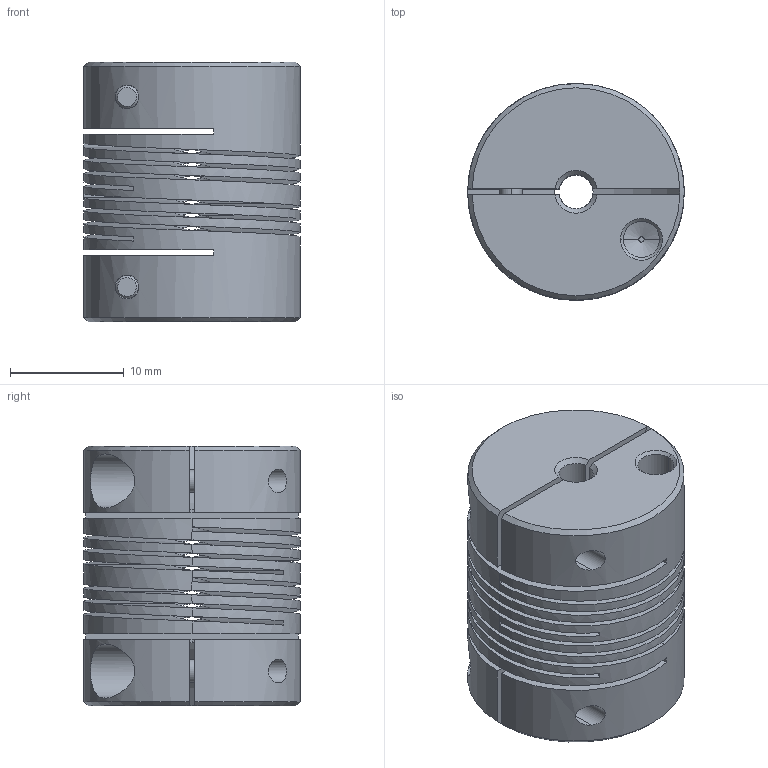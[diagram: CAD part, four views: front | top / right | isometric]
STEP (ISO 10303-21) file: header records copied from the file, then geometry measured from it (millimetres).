
FILE_DESCRIPTION((''),'2;1');
FILE_NAME('PCMR19-3-3-A','2016-09-08T',('SYSTEM'),(''),'PRO/ENGINEER BY PARAMETRIC TECHNOLOGY CORPORATION, 2015110','PRO/ENGINEER BY PARAMETRIC TECHNOLOGY CORPORATION, 2015110','');
FILE_SCHEMA(('AUTOMOTIVE_DESIGN { 1 0 10303 214 1 1 1 1 }'));
Length unit declared in the file: inch
Products named in the file (1): PCMR19-3-3-A
Bounding box: 19.05 x 19.05 x 22.86 mm (x, y, z)
Volume: 5159.6 mm3; surface area: 7050 mm2
Topology: 1 solids, 1 shells, 162 faces, 438 edges, 280 vertices
Faces by surface type: cylinder 57, plane 50, bspline 32, cone 23
Entity records: 9494 total; most frequent: CARTESIAN_POINT 4500, ORIENTED_EDGE 876, DIRECTION 650, EDGE_CURVE 438, VERTEX_POINT 280, AXIS2_PLACEMENT_3D 222, VECTOR 206, LINE 206
